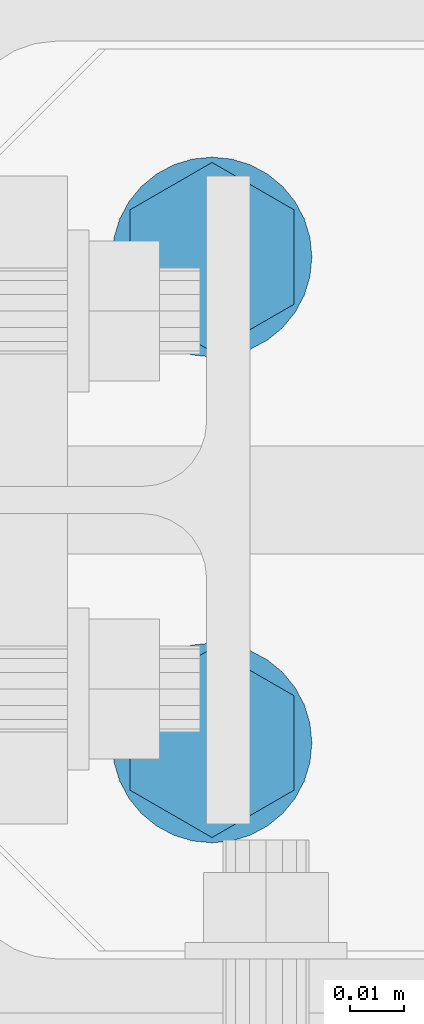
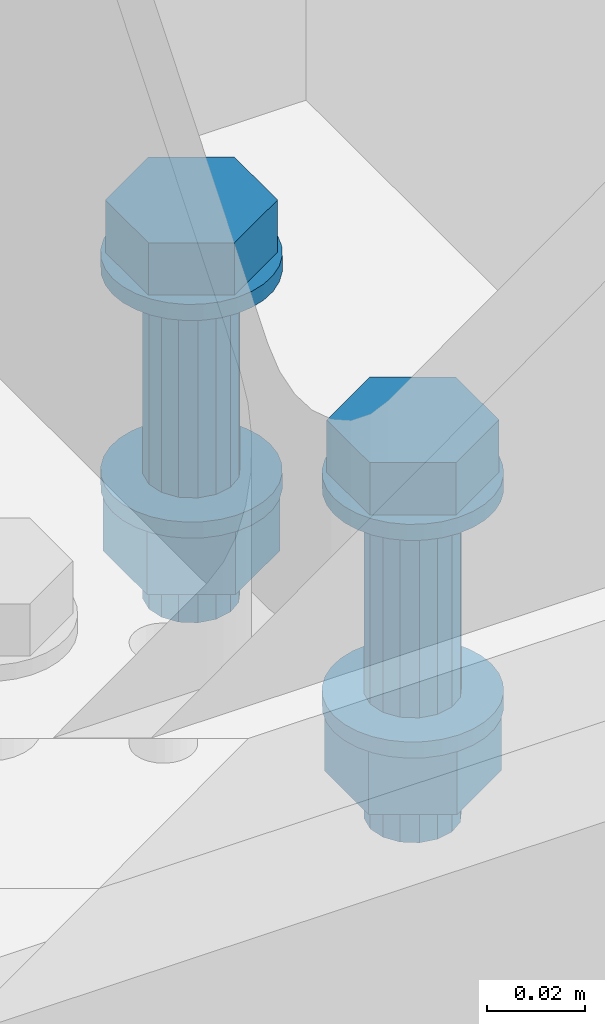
# One storey, part 384 of 821: 1 mechanical fastener.
"""IFC2X3 building model written with IfcOpenShell, lengths in millimetres."""

import ifcopenshell
import ifcopenshell.guid

model = None  # the IFC model being written
_history = None  # IfcOwnerHistory: only IFC2X3 demands one
_inside = {}  # id of a spatial element -> (the spatial element, [elements in it])
_under = {}  # id of a project, library or spatial element -> (it, [spatial elements below it])
_declared = {}  # id of a project -> (the project, [libraries it declares])
_typed = {}  # id of a type object -> (the type object, [elements of that type])
_made_of = {}  # id of a material, layer set ... -> (it, [elements and type objects made of it])


def new_model(schema):
    """Start an empty IFC model of exactly this schema.

    Asked for "IFC4X3", IfcOpenShell would pick the latest addendum, in which some entities
    have other attributes; the version numbers below select the first issue.
    IFC2X3 requires an IfcOwnerHistory on every rooted entity: one is made here for all.
    """
    global model, _history
    if schema == "IFC4X3":
        model = ifcopenshell.file(schema_version=(4, 3, 0, 0))
    else:
        model = ifcopenshell.file(schema=schema)
    _inside.clear()
    _under.clear()
    _declared.clear()
    _typed.clear()
    _made_of.clear()
    _history = None
    if model.schema == "IFC2X3":
        org = make("IfcOrganization", Name="unknown")
        user = make(
            "IfcPersonAndOrganization",
            ThePerson=make("IfcPerson", FamilyName="unknown"),
            TheOrganization=org,
        )
        app = make(
            "IfcApplication",
            ApplicationDeveloper=org,
            Version="unknown",
            ApplicationFullName="unknown",
            ApplicationIdentifier="unknown",
        )
        _history = make(
            "IfcOwnerHistory",
            OwningUser=user,
            OwningApplication=app,
            ChangeAction="ADDED",
            CreationDate=0,
        )
    return model


def make(cls, **values):
    """One entity of the class cls with the attributes given. An attribute that is None is left unset."""
    return model.create_entity(
        cls, **{name: value for name, value in values.items() if value is not None}
    )


def entity(cls, *values):
    """Any entity or typed value of the class cls, its attributes in the order of the schema. None: left unset."""
    e = model.create_entity(cls)
    for i, value in enumerate(values):
        if value is not None:
            e[i] = value
    return e


def rooted(cls, **values):
    """An entity with a GlobalId (a new one), such as an element, a storey or a relation."""
    return make(cls, GlobalId=ifcopenshell.guid.new(), OwnerHistory=_history, **values)


def si_unit(unit_type, name, prefix=None):
    """IfcSIUnit, for example si_unit("LENGTHUNIT", "METRE", prefix="MILLI")."""
    return make("IfcSIUnit", UnitType=unit_type, Prefix=prefix, Name=name)


def converted_unit(unit_type, name, factor, base, dimensions=None, offset=None):
    """IfcConversionBasedUnit, such as the inch: factor (a typed value) times the base unit."""
    return make(
        "IfcConversionBasedUnit"
        if offset is None
        else "IfcConversionBasedUnitWithOffset",
        ConversionOffset=offset,
        Dimensions=None
        if dimensions is None
        else entity("IfcDimensionalExponents", *dimensions),
        UnitType=unit_type,
        Name=name,
        ConversionFactor=make(
            "IfcMeasureWithUnit", ValueComponent=factor, UnitComponent=base
        ),
    )


def assignment(units):
    """IfcUnitAssignment: the units of a project."""
    return None if units is None else make("IfcUnitAssignment", Units=units)


def point(xyz):
    """IfcCartesianPoint."""
    return None if xyz is None else make("IfcCartesianPoint", Coordinates=xyz)


def direction(xyz):
    """IfcDirection."""
    return None if xyz is None else make("IfcDirection", DirectionRatios=xyz)


def frame(location, z_axis=None, x_axis=None):
    """IfcAxis2Placement3D, a coordinate frame: its origin and axes. An axis left out is left unset."""
    return make(
        "IfcAxis2Placement3D",
        Location=point(location),
        Axis=direction(z_axis),
        RefDirection=direction(x_axis),
    )


def origin_with_axes():
    """The frame at (0, 0, 0) with the z axis (0, 0, 1) and the x axis (1, 0, 0) written out."""
    return frame((0.0, 0.0, 0.0), z_axis=(0.0, 0.0, 1.0), x_axis=(1.0, 0.0, 0.0))


def place(relative_to, where):
    """IfcLocalPlacement: puts the frame where relative to a parent placement (None: the world)."""
    return make(
        "IfcLocalPlacement", PlacementRelTo=relative_to, RelativePlacement=where
    )


def context(
    kind, dimensions, precision=None, world=None, true_north=None, identifier=None
):
    """IfcGeometricRepresentationContext, for example the 3D "Model" context."""
    return make(
        "IfcGeometricRepresentationContext",
        ContextIdentifier=identifier,
        ContextType=kind,
        CoordinateSpaceDimension=dimensions,
        Precision=precision,
        WorldCoordinateSystem=world,
        TrueNorth=true_north,
    )


def project(units=None, contexts=None):
    """IfcProject with its units and contexts."""
    return rooted(
        "IfcProject",
        Name="project",
        RepresentationContexts=contexts,
        UnitsInContext=assignment(units),
    )


def spatial(cls, under=None, at=None, **own):
    """A site, building, storey or space (cls), placed at a placement, below another one or the project."""
    s = rooted(cls, ObjectPlacement=at, **own)
    if under is not None:
        _under.setdefault(under.id(), (under, []))[1].append(s)
    return s


def faces_of(points, faces, orient=None, outer=None):
    """IfcFace entities. A face is a list of loops; a loop is a list of indices into points, from 0.

    orient and outer hold one flag for each loop. By default every Orientation is true, the
    first loop of a face is its IfcFaceOuterBound and the others are IfcFaceBound.
    """
    made = []
    for i, loops in enumerate(faces):
        bounds = []
        for j, loop in enumerate(loops):
            is_outer = j == 0 if outer is None else outer[i][j]
            bounds.append(
                make(
                    "IfcFaceOuterBound" if is_outer else "IfcFaceBound",
                    Bound=make("IfcPolyLoop", Polygon=[points[k] for k in loop]),
                    Orientation=True if orient is None else orient[i][j],
                )
            )
        made.append(make("IfcFace", Bounds=bounds))
    return made


def faceted_brep(points, faces, orient=None, outer=None, voids=None):
    """IfcFacetedBrep: a solid bounded by flat faces; with voids (closed shells), ...WithVoids."""
    shared = [point(p) for p in points]
    hull = make("IfcClosedShell", CfsFaces=faces_of(shared, faces, orient, outer))
    if voids is None:
        return make("IfcFacetedBrep", Outer=hull)
    return make(
        "IfcFacetedBrepWithVoids",
        Outer=hull,
        Voids=[
            make(cls, CfsFaces=faces_of(shared, fs, o, b)) for cls, fs, o, b in voids
        ],
    )


def shape(context_of_items, identifier, shape_type, items):
    """IfcShapeRepresentation: the items that make up one representation, for example the "Body"."""
    return make(
        "IfcShapeRepresentation",
        ContextOfItems=context_of_items,
        RepresentationIdentifier=identifier,
        RepresentationType=shape_type,
        Items=items,
    )


def made_of(thing, what):
    """Note that an element or type object is made of a material, layer set ...; save() writes the relation."""
    if what is not None:
        _made_of.setdefault(what.id(), (what, []))[1].append(thing)
    return thing


def element(
    cls,
    number,
    at=None,
    inside=None,
    cuts=None,
    type_object=None,
    material=None,
    context=None,
    identifier="Body",
    shape_type=None,
    held_by="IfcProductDefinitionShape",
    body=None,
    shapes=None,
    **own,
):
    """One element of the class cls, such as IfcWall. Its Tag is "e" and its number.

    at: its placement. inside: the storey or other place that contains it. cuts: it is an
    opening in that element (IfcRelVoidsElement). A single representation is given by context,
    identifier, shape_type and body (its items); several are given by shapes. held_by: the class
    of the entity that holds the representations. save() writes the other relations.
    """
    e = rooted(cls, Tag="e%d" % number, ObjectPlacement=at, **own)
    if body is not None:
        shapes = [shape(context, identifier, shape_type, body)]
    if shapes is not None:
        e.Representation = make(held_by, Representations=shapes)
    if inside is not None:
        _inside.setdefault(inside.id(), (inside, []))[1].append(e)
    if cuts is not None:
        rooted(
            "IfcRelVoidsElement", RelatingBuildingElement=cuts, RelatedOpeningElement=e
        )
    if type_object is not None:
        _typed.setdefault(type_object.id(), (type_object, []))[1].append(e)
    return made_of(e, material)


def aggregate(whole, parts):
    """IfcRelAggregates: a whole, such as a stair, and the parts it consists of."""
    return rooted("IfcRelAggregates", RelatingObject=whole, RelatedObjects=parts)


def save(model, path):
    """Write the relations noted so far, then the file.

    IfcRelAggregates (storeys below a building ...), IfcRelContainedInSpatialStructure (elements
    in a storey), IfcRelDefinesByType, IfcRelAssociatesMaterial and IfcRelDeclares: one each for
    every whole, place, type object, material and project.
    """
    for whole, parts in _under.values():
        aggregate(whole, parts)
    for where, things in _inside.values():
        rooted(
            "IfcRelContainedInSpatialStructure",
            RelatedElements=things,
            RelatingStructure=where,
        )
    for kind, things in _typed.values():
        rooted("IfcRelDefinesByType", RelatedObjects=things, RelatingType=kind)
    for what, things in _made_of.values():
        rooted("IfcRelAssociatesMaterial", RelatedObjects=things, RelatingMaterial=what)
    for by, libraries in _declared.values():
        rooted("IfcRelDeclares", RelatingContext=by, RelatedDefinitions=libraries)
    model.write(path)


model = new_model("IFC2X3")

# Units and contexts
model_context = context("Model", 3, precision=1e-09, world=origin_with_axes())
ifc_project = project(units=[si_unit("LENGTHUNIT", "METRE", prefix="MILLI"), si_unit("AREAUNIT", "SQUARE_METRE"), si_unit("VOLUMEUNIT", "CUBIC_METRE"), converted_unit("PLANEANGLEUNIT", "DEGREE", entity("IfcPlaneAngleMeasure", 0.01745329), si_unit("PLANEANGLEUNIT", "RADIAN"), dimensions=[0, 0, 0, 0, 0, 0, 0])], contexts=[model_context])

# Site, building, storey
site_placement = place(None, origin_with_axes())
site = spatial("IfcSite", under=ifc_project, at=site_placement, Name="Cnopf'sche Kinderklinik", CompositionType="ELEMENT")
building_placement = place(site_placement, origin_with_axes())
building = spatial("IfcBuilding", under=site, at=building_placement, Name="Struktur 1", CompositionType="ELEMENT")
storey_placement = place(building_placement, origin_with_axes())
storey = spatial("IfcBuildingStorey", under=building, at=storey_placement, Name="Default Storey", CompositionType="ELEMENT", Elevation=0.0)

# Mechanical fastener
mechanical_fastener_placement = place(None, origin_with_axes())
element("IfcMechanicalFastener", 1, at=mechanical_fastener_placement, inside=storey, ObjectType="Bolt#2", NominalDiameter=20.0, NominalLength=85.0, context=model_context, shape_type="Brep", body=[
    faceted_brep([(4925.213402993, 7561.736971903, 4175.0), (4925.213402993, 7561.736971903, 4179.0), (4924.857930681, 7558.127800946, 4179.0), (4924.857930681, 7558.127800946, 4175.0), (4923.805174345, 7554.657328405, 4179.0), (4923.805174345, 7554.657328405, 4175.0), (4922.095590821, 7551.458922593, 4179.0), (4922.095590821, 7551.458922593, 4175.0), (4919.794878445, 7548.655496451, 4179.0), (4919.794878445, 7548.655496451, 4175.0), (4916.991452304, 7546.354784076, 4179.0), (4916.991452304, 7546.354784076, 4175.0), (4913.793046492, 7544.645200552, 4179.0), (4913.793046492, 7544.645200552, 4175.0), (4910.32257395, 7543.592444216, 4179.0), (4910.32257395, 7543.592444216, 4175.0), (4906.713402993, 7543.236971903, 4179.0), (4906.713402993, 7543.236971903, 4175.0), (4903.104232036, 7543.592444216, 4179.0), (4903.104232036, 7543.592444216, 4175.0), (4899.633759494, 7544.645200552, 4179.0), (4899.633759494, 7544.645200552, 4175.0), (4896.435353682, 7546.354784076, 4179.0), (4896.435353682, 7546.354784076, 4175.0), (4893.631927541, 7548.655496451, 4179.0), (4893.631927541, 7548.655496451, 4175.0), (4891.331215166, 7551.458922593, 4179.0), (4891.331215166, 7551.458922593, 4175.0), (4889.621631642, 7554.657328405, 4179.0), (4889.621631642, 7554.657328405, 4175.0), (4888.568875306, 7558.127800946, 4179.0), (4888.568875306, 7558.127800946, 4175.0), (4888.213402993, 7561.736971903, 4179.0), (4888.213402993, 7561.736971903, 4175.0), (4888.568875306, 7565.346142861, 4179.0), (4888.568875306, 7565.346142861, 4175.0), (4889.621631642, 7568.816615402, 4179.0), (4889.621631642, 7568.816615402, 4175.0), (4891.331215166, 7572.015021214, 4179.0), (4891.331215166, 7572.015021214, 4175.0), (4893.631927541, 7574.818447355, 4179.0), (4893.631927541, 7574.818447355, 4175.0), (4896.435353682, 7577.119159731, 4179.0), (4896.435353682, 7577.119159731, 4175.0), (4899.633759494, 7578.828743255, 4179.0), (4899.633759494, 7578.828743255, 4175.0), (4903.104232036, 7579.881499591, 4179.0), (4903.104232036, 7579.881499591, 4175.0), (4906.713402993, 7580.236971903, 4179.0), (4906.713402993, 7580.236971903, 4175.0), (4910.32257395, 7579.881499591, 4179.0), (4910.32257395, 7579.881499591, 4175.0), (4913.793046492, 7578.828743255, 4179.0), (4913.793046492, 7578.828743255, 4175.0), (4916.991452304, 7577.119159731, 4179.0), (4916.991452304, 7577.119159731, 4175.0), (4919.794878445, 7574.818447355, 4179.0), (4919.794878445, 7574.818447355, 4175.0), (4922.095590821, 7572.015021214, 4179.0), (4922.095590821, 7572.015021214, 4175.0), (4923.805174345, 7568.816615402, 4179.0), (4923.805174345, 7568.816615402, 4175.0), (4924.857930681, 7565.346142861, 4179.0), (4924.857930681, 7565.346142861, 4175.0)], [[[0, 1, 2, 3]], [[3, 2, 4, 5]], [[5, 4, 6, 7]], [[7, 6, 8, 9]], [[9, 8, 10, 11]], [[11, 10, 12, 13]], [[13, 12, 14, 15]], [[15, 14, 16, 17]], [[17, 16, 18, 19]], [[19, 18, 20, 21]], [[21, 20, 22, 23]], [[23, 22, 24, 25]], [[25, 24, 26, 27]], [[27, 26, 28, 29]], [[29, 28, 30, 31]], [[31, 30, 32, 33]], [[33, 32, 34, 35]], [[35, 34, 36, 37]], [[37, 36, 38, 39]], [[39, 38, 40, 41]], [[41, 40, 42, 43]], [[43, 42, 44, 45]], [[45, 44, 46, 47]], [[47, 46, 48, 49]], [[49, 48, 50, 51]], [[51, 50, 52, 53]], [[53, 52, 54, 55]], [[55, 54, 56, 57]], [[57, 56, 58, 59]], [[59, 58, 60, 61]], [[61, 60, 62, 63]], [[63, 62, 1, 0]], [[2, 1, 62, 60, 58, 56, 54, 52, 50, 48, 46, 44, 42, 40, 38, 36, 34, 32, 30, 28, 26, 24, 22, 20, 18, 16, 14, 12, 10, 8, 6, 4]], [[63, 0, 3, 5, 7, 9, 11, 13, 15, 17, 19, 21, 23, 25, 27, 29, 31, 33, 35, 37, 39, 41, 43, 45, 47, 49, 51, 53, 55, 57, 59, 61]]]),
    faceted_brep([(4925.213402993, 7471.736971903, 4175.0), (4925.213402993, 7471.736971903, 4179.0), (4924.857930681, 7468.127800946, 4179.0), (4924.857930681, 7468.127800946, 4175.0), (4923.805174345, 7464.657328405, 4179.0), (4923.805174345, 7464.657328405, 4175.0), (4922.095590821, 7461.458922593, 4179.0), (4922.095590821, 7461.458922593, 4175.0), (4919.794878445, 7458.655496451, 4179.0), (4919.794878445, 7458.655496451, 4175.0), (4916.991452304, 7456.354784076, 4179.0), (4916.991452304, 7456.354784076, 4175.0), (4913.793046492, 7454.645200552, 4179.0), (4913.793046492, 7454.645200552, 4175.0), (4910.32257395, 7453.592444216, 4179.0), (4910.32257395, 7453.592444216, 4175.0), (4906.713402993, 7453.236971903, 4179.0), (4906.713402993, 7453.236971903, 4175.0), (4903.104232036, 7453.592444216, 4179.0), (4903.104232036, 7453.592444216, 4175.0), (4899.633759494, 7454.645200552, 4179.0), (4899.633759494, 7454.645200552, 4175.0), (4896.435353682, 7456.354784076, 4179.0), (4896.435353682, 7456.354784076, 4175.0), (4893.631927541, 7458.655496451, 4179.0), (4893.631927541, 7458.655496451, 4175.0), (4891.331215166, 7461.458922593, 4179.0), (4891.331215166, 7461.458922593, 4175.0), (4889.621631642, 7464.657328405, 4179.0), (4889.621631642, 7464.657328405, 4175.0), (4888.568875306, 7468.127800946, 4179.0), (4888.568875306, 7468.127800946, 4175.0), (4888.213402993, 7471.736971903, 4179.0), (4888.213402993, 7471.736971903, 4175.0), (4888.568875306, 7475.346142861, 4179.0), (4888.568875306, 7475.346142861, 4175.0), (4889.621631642, 7478.816615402, 4179.0), (4889.621631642, 7478.816615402, 4175.0), (4891.331215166, 7482.015021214, 4179.0), (4891.331215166, 7482.015021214, 4175.0), (4893.631927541, 7484.818447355, 4179.0), (4893.631927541, 7484.818447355, 4175.0), (4896.435353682, 7487.119159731, 4179.0), (4896.435353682, 7487.119159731, 4175.0), (4899.633759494, 7488.828743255, 4179.0), (4899.633759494, 7488.828743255, 4175.0), (4903.104232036, 7489.881499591, 4179.0), (4903.104232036, 7489.881499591, 4175.0), (4906.713402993, 7490.236971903, 4179.0), (4906.713402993, 7490.236971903, 4175.0), (4910.32257395, 7489.881499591, 4179.0), (4910.32257395, 7489.881499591, 4175.0), (4913.793046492, 7488.828743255, 4179.0), (4913.793046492, 7488.828743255, 4175.0), (4916.991452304, 7487.119159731, 4179.0), (4916.991452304, 7487.119159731, 4175.0), (4919.794878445, 7484.818447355, 4179.0), (4919.794878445, 7484.818447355, 4175.0), (4922.095590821, 7482.015021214, 4179.0), (4922.095590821, 7482.015021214, 4175.0), (4923.805174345, 7478.816615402, 4179.0), (4923.805174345, 7478.816615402, 4175.0), (4924.857930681, 7475.346142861, 4179.0), (4924.857930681, 7475.346142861, 4175.0)], [[[0, 1, 2, 3]], [[3, 2, 4, 5]], [[5, 4, 6, 7]], [[7, 6, 8, 9]], [[9, 8, 10, 11]], [[11, 10, 12, 13]], [[13, 12, 14, 15]], [[15, 14, 16, 17]], [[17, 16, 18, 19]], [[19, 18, 20, 21]], [[21, 20, 22, 23]], [[23, 22, 24, 25]], [[25, 24, 26, 27]], [[27, 26, 28, 29]], [[29, 28, 30, 31]], [[31, 30, 32, 33]], [[33, 32, 34, 35]], [[35, 34, 36, 37]], [[37, 36, 38, 39]], [[39, 38, 40, 41]], [[41, 40, 42, 43]], [[43, 42, 44, 45]], [[45, 44, 46, 47]], [[47, 46, 48, 49]], [[49, 48, 50, 51]], [[51, 50, 52, 53]], [[53, 52, 54, 55]], [[55, 54, 56, 57]], [[57, 56, 58, 59]], [[59, 58, 60, 61]], [[61, 60, 62, 63]], [[63, 62, 1, 0]], [[2, 1, 62, 60, 58, 56, 54, 52, 50, 48, 46, 44, 42, 40, 38, 36, 34, 32, 30, 28, 26, 24, 22, 20, 18, 16, 14, 12, 10, 8, 6, 4]], [[63, 0, 3, 5, 7, 9, 11, 13, 15, 17, 19, 21, 23, 25, 27, 29, 31, 33, 35, 37, 39, 41, 43, 45, 47, 49, 51, 53, 55, 57, 59, 61]]]),
    faceted_brep([(4891.544968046, 7552.979471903, 4192.0), (4891.544968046, 7552.979471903, 4179.0), (4906.713402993, 7544.221971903, 4179.0), (4906.713402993, 7544.221971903, 4192.0), (4921.88183794, 7552.979471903, 4179.0), (4921.88183794, 7552.979471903, 4192.0), (4921.88183794, 7570.494471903, 4179.0), (4921.88183794, 7570.494471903, 4192.0), (4906.713402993, 7579.251971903, 4179.0), (4906.713402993, 7579.251971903, 4192.0), (4891.544968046, 7570.494471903, 4179.0), (4891.544968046, 7570.494471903, 4192.0)], [[[0, 1, 2, 3]], [[3, 2, 4, 5]], [[5, 4, 6, 7]], [[7, 6, 8, 9]], [[9, 8, 10, 11]], [[11, 10, 1, 0]], [[3, 5, 7, 9, 11, 0]], [[2, 1, 10, 8, 6, 4]]]),
    faceted_brep([(4891.544968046, 7462.979471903, 4192.0), (4891.544968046, 7462.979471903, 4179.0), (4906.713402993, 7454.221971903, 4179.0), (4906.713402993, 7454.221971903, 4192.0), (4921.88183794, 7462.979471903, 4179.0), (4921.88183794, 7462.979471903, 4192.0), (4921.88183794, 7480.494471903, 4179.0), (4921.88183794, 7480.494471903, 4192.0), (4906.713402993, 7489.251971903, 4179.0), (4906.713402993, 7489.251971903, 4192.0), (4891.544968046, 7480.494471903, 4179.0), (4891.544968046, 7480.494471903, 4192.0)], [[[0, 1, 2, 3]], [[3, 2, 4, 5]], [[5, 4, 6, 7]], [[7, 6, 8, 9]], [[9, 8, 10, 11]], [[11, 10, 1, 0]], [[3, 5, 7, 9, 11, 0]], [[2, 1, 10, 8, 6, 4]]]),
    faceted_brep([(4916.713402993, 7561.736971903, 4125.0), (4916.713402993, 7561.736971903, 4175.0), (4915.952198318, 7557.91013758, 4175.0), (4915.952198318, 7557.91013758, 4125.0), (4913.784470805, 7554.665904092, 4175.0), (4913.784470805, 7554.665904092, 4125.0), (4910.540237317, 7552.498176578, 4175.0), (4910.540237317, 7552.498176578, 4125.0), (4906.713402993, 7551.736971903, 4175.0), (4906.713402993, 7551.736971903, 4125.0), (4902.88656867, 7552.498176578, 4175.0), (4902.88656867, 7552.498176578, 4125.0), (4899.642335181, 7554.665904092, 4175.0), (4899.642335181, 7554.665904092, 4125.0), (4897.474607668, 7557.91013758, 4175.0), (4897.474607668, 7557.91013758, 4125.0), (4896.713402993, 7561.736971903, 4175.0), (4896.713402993, 7561.736971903, 4125.0), (4897.474607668, 7565.563806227, 4175.0), (4897.474607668, 7565.563806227, 4125.0), (4899.642335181, 7568.808039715, 4175.0), (4899.642335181, 7568.808039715, 4125.0), (4902.88656867, 7570.975767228, 4175.0), (4902.88656867, 7570.975767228, 4125.0), (4906.713402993, 7571.736971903, 4175.0), (4906.713402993, 7571.736971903, 4125.0), (4910.540237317, 7570.975767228, 4175.0), (4910.540237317, 7570.975767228, 4125.0), (4913.784470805, 7568.808039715, 4175.0), (4913.784470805, 7568.808039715, 4125.0), (4915.952198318, 7565.563806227, 4175.0), (4915.952198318, 7565.563806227, 4125.0)], [[[0, 1, 2, 3]], [[3, 2, 4, 5]], [[5, 4, 6, 7]], [[7, 6, 8, 9]], [[9, 8, 10, 11]], [[11, 10, 12, 13]], [[13, 12, 14, 15]], [[15, 14, 16, 17]], [[17, 16, 18, 19]], [[19, 18, 20, 21]], [[21, 20, 22, 23]], [[23, 22, 24, 25]], [[25, 24, 26, 27]], [[27, 26, 28, 29]], [[29, 28, 30, 31]], [[31, 30, 1, 0]], [[2, 1, 30, 28, 26, 24, 22, 20, 18, 16, 14, 12, 10, 8, 6, 4]], [[31, 0, 3, 5, 7, 9, 11, 13, 15, 17, 19, 21, 23, 25, 27, 29]]]),
    faceted_brep([(4916.713402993, 7471.736971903, 4125.0), (4916.713402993, 7471.736971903, 4175.0), (4915.952198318, 7467.91013758, 4175.0), (4915.952198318, 7467.91013758, 4125.0), (4913.784470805, 7464.665904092, 4175.0), (4913.784470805, 7464.665904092, 4125.0), (4910.540237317, 7462.498176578, 4175.0), (4910.540237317, 7462.498176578, 4125.0), (4906.713402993, 7461.736971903, 4175.0), (4906.713402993, 7461.736971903, 4125.0), (4902.88656867, 7462.498176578, 4175.0), (4902.88656867, 7462.498176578, 4125.0), (4899.642335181, 7464.665904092, 4175.0), (4899.642335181, 7464.665904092, 4125.0), (4897.474607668, 7467.91013758, 4175.0), (4897.474607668, 7467.91013758, 4125.0), (4896.713402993, 7471.736971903, 4175.0), (4896.713402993, 7471.736971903, 4125.0), (4897.474607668, 7475.563806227, 4175.0), (4897.474607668, 7475.563806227, 4125.0), (4899.642335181, 7478.808039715, 4175.0), (4899.642335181, 7478.808039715, 4125.0), (4902.88656867, 7480.975767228, 4175.0), (4902.88656867, 7480.975767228, 4125.0), (4906.713402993, 7481.736971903, 4175.0), (4906.713402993, 7481.736971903, 4125.0), (4910.540237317, 7480.975767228, 4175.0), (4910.540237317, 7480.975767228, 4125.0), (4913.784470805, 7478.808039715, 4175.0), (4913.784470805, 7478.808039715, 4125.0), (4915.952198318, 7475.563806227, 4175.0), (4915.952198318, 7475.563806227, 4125.0)], [[[0, 1, 2, 3]], [[3, 2, 4, 5]], [[5, 4, 6, 7]], [[7, 6, 8, 9]], [[9, 8, 10, 11]], [[11, 10, 12, 13]], [[13, 12, 14, 15]], [[15, 14, 16, 17]], [[17, 16, 18, 19]], [[19, 18, 20, 21]], [[21, 20, 22, 23]], [[23, 22, 24, 25]], [[25, 24, 26, 27]], [[27, 26, 28, 29]], [[29, 28, 30, 31]], [[31, 30, 1, 0]], [[2, 1, 30, 28, 26, 24, 22, 20, 18, 16, 14, 12, 10, 8, 6, 4]], [[31, 0, 3, 5, 7, 9, 11, 13, 15, 17, 19, 21, 23, 25, 27, 29]]]),
    faceted_brep([(4925.213402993, 7561.736971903, 4121.0), (4925.213402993, 7561.736971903, 4125.0), (4924.857930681, 7558.127800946, 4125.0), (4924.857930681, 7558.127800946, 4121.0), (4923.805174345, 7554.657328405, 4125.0), (4923.805174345, 7554.657328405, 4121.0), (4922.095590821, 7551.458922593, 4125.0), (4922.095590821, 7551.458922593, 4121.0), (4919.794878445, 7548.655496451, 4125.0), (4919.794878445, 7548.655496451, 4121.0), (4916.991452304, 7546.354784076, 4125.0), (4916.991452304, 7546.354784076, 4121.0), (4913.793046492, 7544.645200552, 4125.0), (4913.793046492, 7544.645200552, 4121.0), (4910.32257395, 7543.592444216, 4125.0), (4910.32257395, 7543.592444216, 4121.0), (4906.713402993, 7543.236971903, 4125.0), (4906.713402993, 7543.236971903, 4121.0), (4903.104232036, 7543.592444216, 4125.0), (4903.104232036, 7543.592444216, 4121.0), (4899.633759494, 7544.645200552, 4125.0), (4899.633759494, 7544.645200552, 4121.0), (4896.435353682, 7546.354784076, 4125.0), (4896.435353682, 7546.354784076, 4121.0), (4893.631927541, 7548.655496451, 4125.0), (4893.631927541, 7548.655496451, 4121.0), (4891.331215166, 7551.458922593, 4125.0), (4891.331215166, 7551.458922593, 4121.0), (4889.621631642, 7554.657328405, 4125.0), (4889.621631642, 7554.657328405, 4121.0), (4888.568875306, 7558.127800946, 4125.0), (4888.568875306, 7558.127800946, 4121.0), (4888.213402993, 7561.736971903, 4125.0), (4888.213402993, 7561.736971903, 4121.0), (4888.568875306, 7565.346142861, 4125.0), (4888.568875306, 7565.346142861, 4121.0), (4889.621631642, 7568.816615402, 4125.0), (4889.621631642, 7568.816615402, 4121.0), (4891.331215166, 7572.015021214, 4125.0), (4891.331215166, 7572.015021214, 4121.0), (4893.631927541, 7574.818447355, 4125.0), (4893.631927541, 7574.818447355, 4121.0), (4896.435353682, 7577.119159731, 4125.0), (4896.435353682, 7577.119159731, 4121.0), (4899.633759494, 7578.828743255, 4125.0), (4899.633759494, 7578.828743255, 4121.0), (4903.104232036, 7579.881499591, 4125.0), (4903.104232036, 7579.881499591, 4121.0), (4906.713402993, 7580.236971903, 4125.0), (4906.713402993, 7580.236971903, 4121.0), (4910.32257395, 7579.881499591, 4125.0), (4910.32257395, 7579.881499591, 4121.0), (4913.793046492, 7578.828743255, 4125.0), (4913.793046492, 7578.828743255, 4121.0), (4916.991452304, 7577.119159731, 4125.0), (4916.991452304, 7577.119159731, 4121.0), (4919.794878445, 7574.818447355, 4125.0), (4919.794878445, 7574.818447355, 4121.0), (4922.095590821, 7572.015021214, 4125.0), (4922.095590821, 7572.015021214, 4121.0), (4923.805174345, 7568.816615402, 4125.0), (4923.805174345, 7568.816615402, 4121.0), (4924.857930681, 7565.346142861, 4125.0), (4924.857930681, 7565.346142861, 4121.0)], [[[0, 1, 2, 3]], [[3, 2, 4, 5]], [[5, 4, 6, 7]], [[7, 6, 8, 9]], [[9, 8, 10, 11]], [[11, 10, 12, 13]], [[13, 12, 14, 15]], [[15, 14, 16, 17]], [[17, 16, 18, 19]], [[19, 18, 20, 21]], [[21, 20, 22, 23]], [[23, 22, 24, 25]], [[25, 24, 26, 27]], [[27, 26, 28, 29]], [[29, 28, 30, 31]], [[31, 30, 32, 33]], [[33, 32, 34, 35]], [[35, 34, 36, 37]], [[37, 36, 38, 39]], [[39, 38, 40, 41]], [[41, 40, 42, 43]], [[43, 42, 44, 45]], [[45, 44, 46, 47]], [[47, 46, 48, 49]], [[49, 48, 50, 51]], [[51, 50, 52, 53]], [[53, 52, 54, 55]], [[55, 54, 56, 57]], [[57, 56, 58, 59]], [[59, 58, 60, 61]], [[61, 60, 62, 63]], [[63, 62, 1, 0]], [[2, 1, 62, 60, 58, 56, 54, 52, 50, 48, 46, 44, 42, 40, 38, 36, 34, 32, 30, 28, 26, 24, 22, 20, 18, 16, 14, 12, 10, 8, 6, 4]], [[63, 0, 3, 5, 7, 9, 11, 13, 15, 17, 19, 21, 23, 25, 27, 29, 31, 33, 35, 37, 39, 41, 43, 45, 47, 49, 51, 53, 55, 57, 59, 61]]]),
    faceted_brep([(4925.213402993, 7471.736971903, 4121.0), (4925.213402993, 7471.736971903, 4125.0), (4924.857930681, 7468.127800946, 4125.0), (4924.857930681, 7468.127800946, 4121.0), (4923.805174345, 7464.657328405, 4125.0), (4923.805174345, 7464.657328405, 4121.0), (4922.095590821, 7461.458922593, 4125.0), (4922.095590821, 7461.458922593, 4121.0), (4919.794878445, 7458.655496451, 4125.0), (4919.794878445, 7458.655496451, 4121.0), (4916.991452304, 7456.354784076, 4125.0), (4916.991452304, 7456.354784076, 4121.0), (4913.793046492, 7454.645200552, 4125.0), (4913.793046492, 7454.645200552, 4121.0), (4910.32257395, 7453.592444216, 4125.0), (4910.32257395, 7453.592444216, 4121.0), (4906.713402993, 7453.236971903, 4125.0), (4906.713402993, 7453.236971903, 4121.0), (4903.104232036, 7453.592444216, 4125.0), (4903.104232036, 7453.592444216, 4121.0), (4899.633759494, 7454.645200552, 4125.0), (4899.633759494, 7454.645200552, 4121.0), (4896.435353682, 7456.354784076, 4125.0), (4896.435353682, 7456.354784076, 4121.0), (4893.631927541, 7458.655496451, 4125.0), (4893.631927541, 7458.655496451, 4121.0), (4891.331215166, 7461.458922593, 4125.0), (4891.331215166, 7461.458922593, 4121.0), (4889.621631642, 7464.657328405, 4125.0), (4889.621631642, 7464.657328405, 4121.0), (4888.568875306, 7468.127800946, 4125.0), (4888.568875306, 7468.127800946, 4121.0), (4888.213402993, 7471.736971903, 4125.0), (4888.213402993, 7471.736971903, 4121.0), (4888.568875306, 7475.346142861, 4125.0), (4888.568875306, 7475.346142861, 4121.0), (4889.621631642, 7478.816615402, 4125.0), (4889.621631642, 7478.816615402, 4121.0), (4891.331215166, 7482.015021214, 4125.0), (4891.331215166, 7482.015021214, 4121.0), (4893.631927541, 7484.818447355, 4125.0), (4893.631927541, 7484.818447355, 4121.0), (4896.435353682, 7487.119159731, 4125.0), (4896.435353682, 7487.119159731, 4121.0), (4899.633759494, 7488.828743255, 4125.0), (4899.633759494, 7488.828743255, 4121.0), (4903.104232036, 7489.881499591, 4125.0), (4903.104232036, 7489.881499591, 4121.0), (4906.713402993, 7490.236971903, 4125.0), (4906.713402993, 7490.236971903, 4121.0), (4910.32257395, 7489.881499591, 4125.0), (4910.32257395, 7489.881499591, 4121.0), (4913.793046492, 7488.828743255, 4125.0), (4913.793046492, 7488.828743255, 4121.0), (4916.991452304, 7487.119159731, 4125.0), (4916.991452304, 7487.119159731, 4121.0), (4919.794878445, 7484.818447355, 4125.0), (4919.794878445, 7484.818447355, 4121.0), (4922.095590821, 7482.015021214, 4125.0), (4922.095590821, 7482.015021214, 4121.0), (4923.805174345, 7478.816615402, 4125.0), (4923.805174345, 7478.816615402, 4121.0), (4924.857930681, 7475.346142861, 4125.0), (4924.857930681, 7475.346142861, 4121.0)], [[[0, 1, 2, 3]], [[3, 2, 4, 5]], [[5, 4, 6, 7]], [[7, 6, 8, 9]], [[9, 8, 10, 11]], [[11, 10, 12, 13]], [[13, 12, 14, 15]], [[15, 14, 16, 17]], [[17, 16, 18, 19]], [[19, 18, 20, 21]], [[21, 20, 22, 23]], [[23, 22, 24, 25]], [[25, 24, 26, 27]], [[27, 26, 28, 29]], [[29, 28, 30, 31]], [[31, 30, 32, 33]], [[33, 32, 34, 35]], [[35, 34, 36, 37]], [[37, 36, 38, 39]], [[39, 38, 40, 41]], [[41, 40, 42, 43]], [[43, 42, 44, 45]], [[45, 44, 46, 47]], [[47, 46, 48, 49]], [[49, 48, 50, 51]], [[51, 50, 52, 53]], [[53, 52, 54, 55]], [[55, 54, 56, 57]], [[57, 56, 58, 59]], [[59, 58, 60, 61]], [[61, 60, 62, 63]], [[63, 62, 1, 0]], [[2, 1, 62, 60, 58, 56, 54, 52, 50, 48, 46, 44, 42, 40, 38, 36, 34, 32, 30, 28, 26, 24, 22, 20, 18, 16, 14, 12, 10, 8, 6, 4]], [[63, 0, 3, 5, 7, 9, 11, 13, 15, 17, 19, 21, 23, 25, 27, 29, 31, 33, 35, 37, 39, 41, 43, 45, 47, 49, 51, 53, 55, 57, 59, 61]]]),
    faceted_brep([(4891.124945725, 7552.736971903, 4121.0), (4891.124945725, 7552.736971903, 4105.0), (4906.713402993, 7543.736971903, 4105.0), (4906.713402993, 7543.736971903, 4121.0), (4922.301860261, 7552.736971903, 4105.0), (4922.301860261, 7552.736971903, 4121.0), (4922.301860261, 7570.736971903, 4105.0), (4922.301860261, 7570.736971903, 4121.0), (4906.713402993, 7579.736971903, 4105.0), (4906.713402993, 7579.736971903, 4121.0), (4891.124945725, 7570.736971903, 4105.0), (4891.124945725, 7570.736971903, 4121.0)], [[[0, 1, 2, 3]], [[3, 2, 4, 5]], [[5, 4, 6, 7]], [[7, 6, 8, 9]], [[9, 8, 10, 11]], [[11, 10, 1, 0]], [[3, 5, 7, 9, 11, 0]], [[2, 1, 10, 8, 6, 4]]]),
    faceted_brep([(4891.124945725, 7462.736971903, 4121.0), (4891.124945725, 7462.736971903, 4105.0), (4906.713402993, 7453.736971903, 4105.0), (4906.713402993, 7453.736971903, 4121.0), (4922.301860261, 7462.736971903, 4105.0), (4922.301860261, 7462.736971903, 4121.0), (4922.301860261, 7480.736971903, 4105.0), (4922.301860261, 7480.736971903, 4121.0), (4906.713402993, 7489.736971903, 4105.0), (4906.713402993, 7489.736971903, 4121.0), (4891.124945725, 7480.736971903, 4105.0), (4891.124945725, 7480.736971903, 4121.0)], [[[0, 1, 2, 3]], [[3, 2, 4, 5]], [[5, 4, 6, 7]], [[7, 6, 8, 9]], [[9, 8, 10, 11]], [[11, 10, 1, 0]], [[3, 5, 7, 9, 11, 0]], [[2, 1, 10, 8, 6, 4]]]),
    faceted_brep([(4916.713402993, 7561.736971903, 4094.0), (4916.713402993, 7561.736971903, 4105.0), (4915.952198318, 7557.91013758, 4105.0), (4915.952198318, 7557.91013758, 4094.0), (4913.784470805, 7554.665904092, 4105.0), (4913.784470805, 7554.665904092, 4094.0), (4910.540237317, 7552.498176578, 4105.0), (4910.540237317, 7552.498176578, 4094.0), (4906.713402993, 7551.736971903, 4105.0), (4906.713402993, 7551.736971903, 4094.0), (4902.88656867, 7552.498176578, 4105.0), (4902.88656867, 7552.498176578, 4094.0), (4899.642335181, 7554.665904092, 4105.0), (4899.642335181, 7554.665904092, 4094.0), (4897.474607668, 7557.91013758, 4105.0), (4897.474607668, 7557.91013758, 4094.0), (4896.713402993, 7561.736971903, 4105.0), (4896.713402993, 7561.736971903, 4094.0), (4897.474607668, 7565.563806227, 4105.0), (4897.474607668, 7565.563806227, 4094.0), (4899.642335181, 7568.808039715, 4105.0), (4899.642335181, 7568.808039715, 4094.0), (4902.88656867, 7570.975767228, 4105.0), (4902.88656867, 7570.975767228, 4094.0), (4906.713402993, 7571.736971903, 4105.0), (4906.713402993, 7571.736971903, 4094.0), (4910.540237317, 7570.975767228, 4105.0), (4910.540237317, 7570.975767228, 4094.0), (4913.784470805, 7568.808039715, 4105.0), (4913.784470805, 7568.808039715, 4094.0), (4915.952198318, 7565.563806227, 4105.0), (4915.952198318, 7565.563806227, 4094.0)], [[[0, 1, 2, 3]], [[3, 2, 4, 5]], [[5, 4, 6, 7]], [[7, 6, 8, 9]], [[9, 8, 10, 11]], [[11, 10, 12, 13]], [[13, 12, 14, 15]], [[15, 14, 16, 17]], [[17, 16, 18, 19]], [[19, 18, 20, 21]], [[21, 20, 22, 23]], [[23, 22, 24, 25]], [[25, 24, 26, 27]], [[27, 26, 28, 29]], [[29, 28, 30, 31]], [[31, 30, 1, 0]], [[2, 1, 30, 28, 26, 24, 22, 20, 18, 16, 14, 12, 10, 8, 6, 4]], [[31, 0, 3, 5, 7, 9, 11, 13, 15, 17, 19, 21, 23, 25, 27, 29]]]),
    faceted_brep([(4916.713402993, 7471.736971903, 4094.0), (4916.713402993, 7471.736971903, 4105.0), (4915.952198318, 7467.91013758, 4105.0), (4915.952198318, 7467.91013758, 4094.0), (4913.784470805, 7464.665904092, 4105.0), (4913.784470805, 7464.665904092, 4094.0), (4910.540237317, 7462.498176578, 4105.0), (4910.540237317, 7462.498176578, 4094.0), (4906.713402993, 7461.736971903, 4105.0), (4906.713402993, 7461.736971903, 4094.0), (4902.88656867, 7462.498176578, 4105.0), (4902.88656867, 7462.498176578, 4094.0), (4899.642335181, 7464.665904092, 4105.0), (4899.642335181, 7464.665904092, 4094.0), (4897.474607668, 7467.91013758, 4105.0), (4897.474607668, 7467.91013758, 4094.0), (4896.713402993, 7471.736971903, 4105.0), (4896.713402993, 7471.736971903, 4094.0), (4897.474607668, 7475.563806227, 4105.0), (4897.474607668, 7475.563806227, 4094.0), (4899.642335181, 7478.808039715, 4105.0), (4899.642335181, 7478.808039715, 4094.0), (4902.88656867, 7480.975767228, 4105.0), (4902.88656867, 7480.975767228, 4094.0), (4906.713402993, 7481.736971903, 4105.0), (4906.713402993, 7481.736971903, 4094.0), (4910.540237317, 7480.975767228, 4105.0), (4910.540237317, 7480.975767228, 4094.0), (4913.784470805, 7478.808039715, 4105.0), (4913.784470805, 7478.808039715, 4094.0), (4915.952198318, 7475.563806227, 4105.0), (4915.952198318, 7475.563806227, 4094.0)], [[[0, 1, 2, 3]], [[3, 2, 4, 5]], [[5, 4, 6, 7]], [[7, 6, 8, 9]], [[9, 8, 10, 11]], [[11, 10, 12, 13]], [[13, 12, 14, 15]], [[15, 14, 16, 17]], [[17, 16, 18, 19]], [[19, 18, 20, 21]], [[21, 20, 22, 23]], [[23, 22, 24, 25]], [[25, 24, 26, 27]], [[27, 26, 28, 29]], [[29, 28, 30, 31]], [[31, 30, 1, 0]], [[2, 1, 30, 28, 26, 24, 22, 20, 18, 16, 14, 12, 10, 8, 6, 4]], [[31, 0, 3, 5, 7, 9, 11, 13, 15, 17, 19, 21, 23, 25, 27, 29]]]),
])

save(model, "model.ifc")
